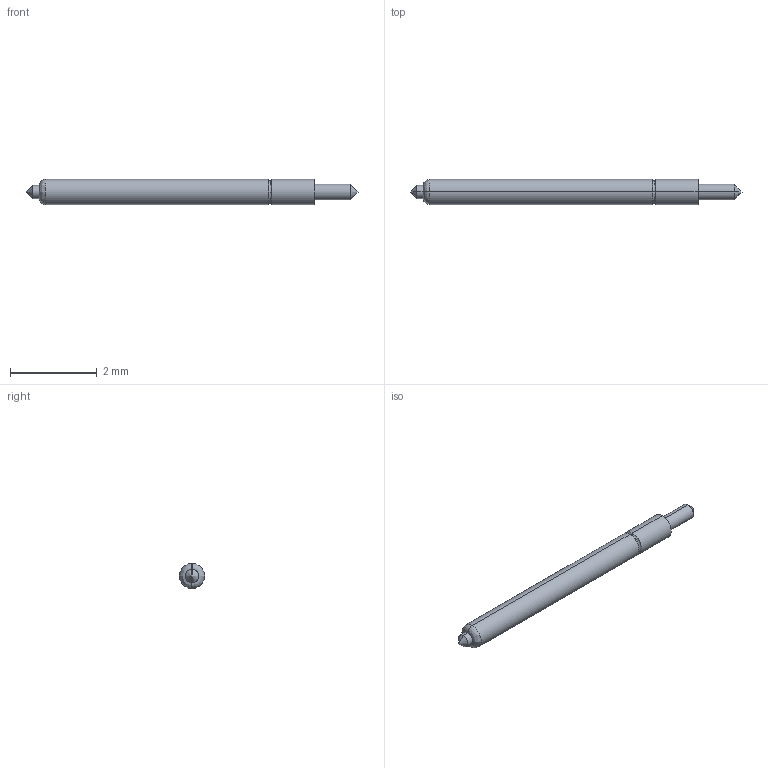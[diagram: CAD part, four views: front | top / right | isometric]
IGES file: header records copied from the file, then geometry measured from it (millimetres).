
Start section: SolidWorks IGES file using analytic representation for surfaces
Global section: file name: Z:\probe solid model mockups\Solidworks models\IGES Files\CSP8-25 IGES files\CSP8-25BB Full.IGS; native system: SolidWorks 2006 by SolidWorks Corporation; preprocessor: SolidWorks 2006 by SolidWorks Corporation; author: tsakatani; date: 080108.153536; units: inch
Bounding box: 7.67 x 0.58 x 0.58 mm (x, y, z)
Surface area: 13.3 mm2 (no closed solid volume)
Topology: 0 solids, 0 shells, 19 faces, 104 edges, 100 vertices
Faces by surface type: revolution 12, bspline 7
